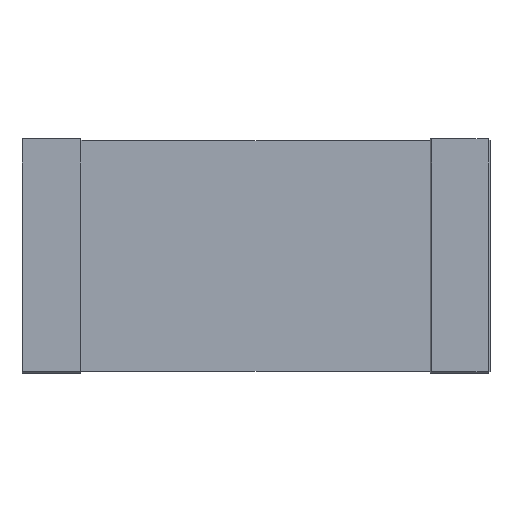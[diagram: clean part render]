
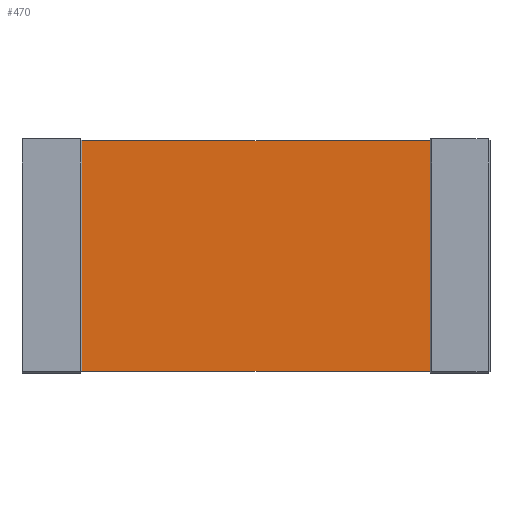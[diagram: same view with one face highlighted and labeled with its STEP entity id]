
A CAD part, top view. The second image highlights one B-rep face of the part: STEP entity #470.
In plain terms, the highlighted planar face has unit normal (0, 0, 1).
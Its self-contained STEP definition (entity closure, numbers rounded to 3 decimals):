
#199 = VERTEX_POINT('',#200);
#200 = CARTESIAN_POINT('',(1.86,-1.23,0.74));
#208 = EDGE_CURVE('',#209,#199,#211,.T.);
#209 = VERTEX_POINT('',#210);
#210 = CARTESIAN_POINT('',(1.86,1.23,0.74));
#211 = LINE('',#212,#213);
#212 = CARTESIAN_POINT('',(1.86,1.23,0.74));
#213 = VECTOR('',#214,1.);
#214 = DIRECTION('',(0.,-1.,0.));
#395 = EDGE_CURVE('',#396,#199,#398,.T.);
#396 = VERTEX_POINT('',#397);
#397 = CARTESIAN_POINT('',(-1.86,-1.23,0.74));
#398 = LINE('',#399,#400);
#399 = CARTESIAN_POINT('',(-1.86,-1.23,0.74));
#400 = VECTOR('',#401,1.);
#401 = DIRECTION('',(1.,0.,0.));
#452 = EDGE_CURVE('',#453,#209,#455,.T.);
#453 = VERTEX_POINT('',#454);
#454 = CARTESIAN_POINT('',(-1.86,1.23,0.74));
#455 = LINE('',#456,#457);
#456 = CARTESIAN_POINT('',(-1.86,1.23,0.74));
#457 = VECTOR('',#458,1.);
#458 = DIRECTION('',(1.,0.,0.));
#470 = ADVANCED_FACE('',(#471),#482,.F.);
#471 = FACE_BOUND('',#472,.F.);
#472 = EDGE_LOOP('',(#473,#474,#475,#476));
#473 = ORIENTED_EDGE('',*,*,#452,.T.);
#474 = ORIENTED_EDGE('',*,*,#208,.T.);
#475 = ORIENTED_EDGE('',*,*,#395,.F.);
#476 = ORIENTED_EDGE('',*,*,#477,.F.);
#477 = EDGE_CURVE('',#453,#396,#478,.T.);
#478 = LINE('',#479,#480);
#479 = CARTESIAN_POINT('',(-1.86,1.25,0.74));
#480 = VECTOR('',#481,1.);
#481 = DIRECTION('',(0.,-1.,0.));
#482 = PLANE('',#483);
#483 = AXIS2_PLACEMENT_3D('',#484,#485,#486);
#484 = CARTESIAN_POINT('',(-1.86,1.23,0.74));
#485 = DIRECTION('',(0.,0.,-1.));
#486 = DIRECTION('',(0.,-1.,0.));
